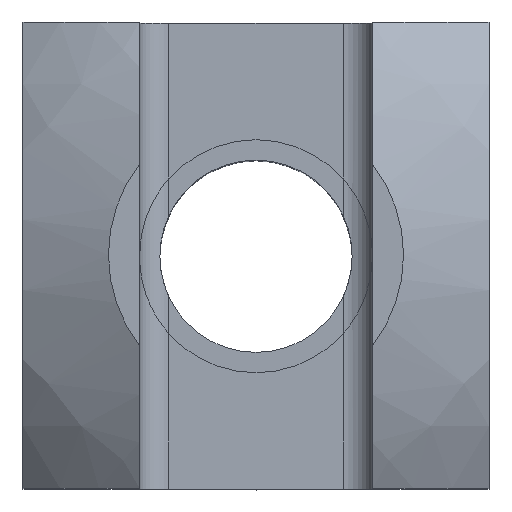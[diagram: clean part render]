
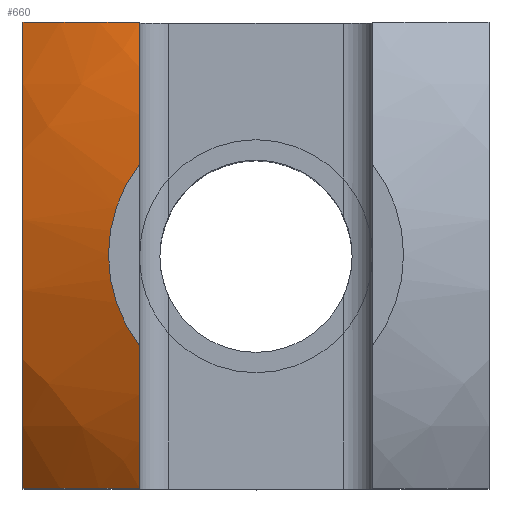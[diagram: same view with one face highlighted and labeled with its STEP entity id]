
A CAD part, top view. The second image highlights one B-rep face of the part: STEP entity #660.
In plain terms, the highlighted spherical face has radius 8.22 mm.
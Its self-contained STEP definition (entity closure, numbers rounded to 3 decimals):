
#67=CARTESIAN_POINT('',(-2.,0.,13.181));
#68=DIRECTION('',(-1.,0.,0.));
#69=DIRECTION('',(0.,0.195,0.981));
#70=AXIS2_PLACEMENT_3D('',#67,#68,#69);
#72=CARTESIAN_POINT('',(-2.,0.,13.181));
#73=DIRECTION('',(-1.,0.,0.));
#74=DIRECTION('',(0.,-0.502,0.865));
#75=AXIS2_PLACEMENT_3D('',#72,#73,#74);
#104=CARTESIAN_POINT('',(0.,-4.,13.181));
#105=DIRECTION('',(0.,-1.,0.));
#106=DIRECTION('',(-0.279,0.,0.96));
#107=AXIS2_PLACEMENT_3D('',#104,#105,#106);
#200=CARTESIAN_POINT('',(-4.,0.,13.181));
#201=DIRECTION('',(-1.,0.,0.));
#202=DIRECTION('',(0.,-0.557,0.83));
#203=AXIS2_PLACEMENT_3D('',#200,#201,#202);
#241=CARTESIAN_POINT('',(0.,4.,13.181));
#242=DIRECTION('',(0.,1.,0.));
#243=DIRECTION('',(-0.557,0.,0.83));
#244=AXIS2_PLACEMENT_3D('',#241,#242,#243);
#357=CARTESIAN_POINT('',(0.,0.,21.));
#358=DIRECTION('',(0.,0.,-1.));
#359=DIRECTION('',(-0.79,-0.614,0.));
#360=AXIS2_PLACEMENT_3D('',#357,#358,#359);
#436=CARTESIAN_POINT('',(-4.,-4.,19.144));
#437=CARTESIAN_POINT('',(-4.,4.,19.144));
#438=VERTEX_POINT('',#436);
#439=VERTEX_POINT('',#437);
#454=CARTESIAN_POINT('',(-2.,1.554,21.));
#455=CARTESIAN_POINT('',(-2.,4.,20.077));
#456=VERTEX_POINT('',#454);
#457=VERTEX_POINT('',#455);
#460=CARTESIAN_POINT('',(-2.,-4.,20.077));
#461=VERTEX_POINT('',#460);
#472=CARTESIAN_POINT('',(-2.,-1.554,21.));
#473=VERTEX_POINT('',#472);
#641=CARTESIAN_POINT('',(0.,0.,13.181));
#642=DIRECTION('',(0.,0.,-1.));
#643=DIRECTION('',(0.,-1.,0.));
#644=AXIS2_PLACEMENT_3D('',#641,#642,#643);
#645=SPHERICAL_SURFACE('',#644,8.219);
#647=ORIENTED_EDGE('',*,*,#646,.F.);
#649=ORIENTED_EDGE('',*,*,#648,.F.);
#651=ORIENTED_EDGE('',*,*,#650,.F.);
#653=ORIENTED_EDGE('',*,*,#652,.T.);
#655=ORIENTED_EDGE('',*,*,#654,.T.);
#657=ORIENTED_EDGE('',*,*,#656,.T.);
#658=EDGE_LOOP('',(#647,#649,#651,#653,#655,#657));
#659=FACE_OUTER_BOUND('',#658,.F.);
#660=ADVANCED_FACE('',(#659),#645,.T.);
#71=CIRCLE('',#70,7.972);
#76=CIRCLE('',#75,7.972);
#108=CIRCLE('',#107,7.181);
#204=CIRCLE('',#203,7.181);
#245=CIRCLE('',#244,7.181);
#361=CIRCLE('',#360,2.533);
#646=EDGE_CURVE('',#456,#457,#71,.T.);
#648=EDGE_CURVE('',#473,#456,#361,.T.);
#650=EDGE_CURVE('',#461,#473,#76,.T.);
#652=EDGE_CURVE('',#461,#438,#108,.T.);
#654=EDGE_CURVE('',#438,#439,#204,.T.);
#656=EDGE_CURVE('',#439,#457,#245,.T.);
